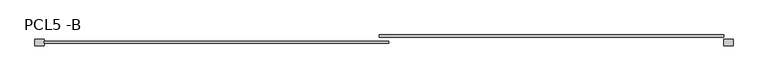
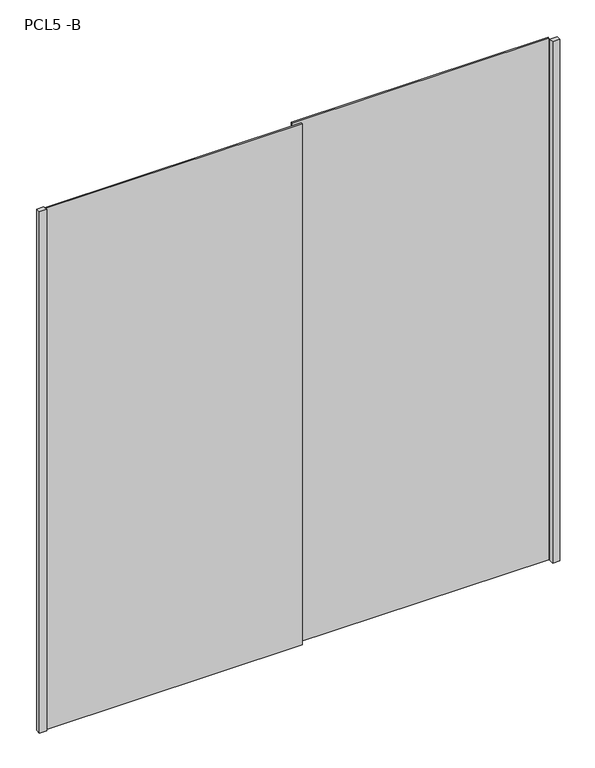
"""IFC4 building model written with IfcOpenShell, lengths in millimetres: furniture geometry, Puerta Closet corre 2 hojas : PCL5 -B."""

from ifc_helpers import new_model, si_unit, origin, origin_with_axes, place, context, project, spatial, polyline, outline, extrude, source, transform, mapped, element, save


def pcl5_b_45492fc1(model_context):
    return source(origin(), model_context, "Body", "SweptSolid", [
        extrude(outline(polyline([(555.0, 80.0), (525.0, 80.0), (525.0, 100.0), (555.0, 100.0), (555.0, 80.0)])), origin_with_axes(), (0.0, 0.0, 1.0), 2320.0),
        extrude(outline(polyline([(525.0, 106.6666667), (-555.0, 106.6666667), (-555.0, 113.3333333), (525.0, 113.3333333), (525.0, 106.6666667)])), origin_with_axes(), (0.0, 0.0, 1.0), 2320.0),
        extrude(outline(polyline([(-525.0, 86.6666667), (-1605.0, 86.6666667), (-1605.0, 93.3333333), (-525.0, 93.3333333), (-525.0, 86.6666667)])), origin_with_axes(), (0.0, 0.0, 1.0), 2320.0),
        extrude(outline(polyline([(-1635.0, 80.0), (-1635.0, 100.0), (-1605.0, 100.0), (-1605.0, 80.0), (-1635.0, 80.0)])), origin_with_axes(), (0.0, 0.0, 1.0), 2320.0),
    ])


if __name__ == "__main__":
    model = new_model("IFC4")
    model_context = context("Model", 3, world=origin())
    ifc_project = project(units=[si_unit("LENGTHUNIT", "METRE", prefix="MILLI")], contexts=[model_context])
    site = spatial("IfcSite", under=ifc_project)
    building = spatial("IfcBuilding", under=site)
    placement = place(None, origin())
    pcl5_b_shape = pcl5_b_45492fc1(model_context)
    element("IfcFurniture", 1, ObjectType="Puerta Closet corre 2 hojas : PCL5 -B", at=placement, inside=building, context=model_context, shape_type="MappedRepresentation", body=[
        mapped(pcl5_b_shape, transform((0.0, 0.0, 0.0), x_axis=(1.0, 0.0, 0.0), y_axis=(0.0, 1.0, 0.0), z_axis=(0.0, 0.0, 1.0))),
    ])
    save(model, "model.ifc")
